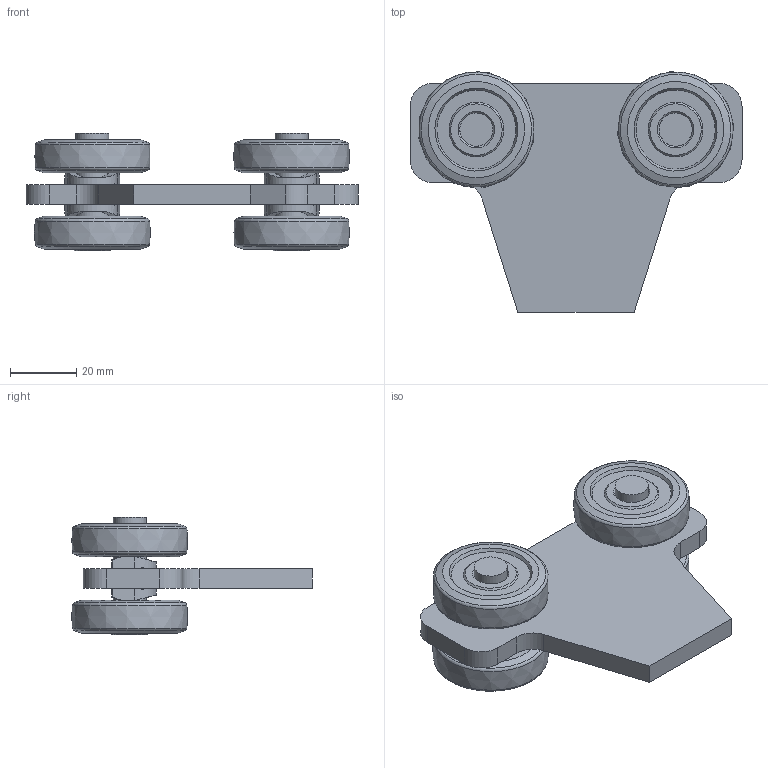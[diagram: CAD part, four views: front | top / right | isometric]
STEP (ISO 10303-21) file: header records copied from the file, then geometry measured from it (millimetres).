
FILE_DESCRIPTION(/* description */ ('Brennteil'),/* implementation_level */ '2;1');
FILE_NAME(/* name */ 'Q:\sge-ma\Produktmanagement-STB\STB\Workspace\stp\010336848.stp',/* time_stamp */ '2016-07-14T12:57:50+02:00',/* author */ ('avschreier'),/* organization */ (''),/* preprocessor_version */ 'ST-DEVELOPER v16.1',/* originating_system */ 'Autodesk Inventor 2016',/* authorisation */ '');
FILE_SCHEMA (('AUTOMOTIVE_DESIGN { 1 0 10303 214 3 1 1 }'));
Length unit declared in the file: millimetre
Products named in the file (5): 000302063; 000303236; 336290020; 000304013; 010336848
Assembly tree (11 placements, depth 2):
  010336848
    000302063
    000303236  x4
    336290020  x4
    000304013  x2
Bounding box: 100 x 72.49 x 35.5 mm (x, y, z)
Volume: 65216.6 mm3; surface area: 27735 mm2
Topology: 11 solids, 11 shells, 262 faces, 622 edges, 400 vertices
Faces by surface type: plane 148, bspline 36, cylinder 34, cone 34, torus 10
Full cylindrical faces by diameter (mm): 10 x6, 12 x2
Entity records: 3721 total; most frequent: CARTESIAN_POINT 1584, DIRECTION 432, ORIENTED_EDGE 390, EDGE_CURVE 195, AXIS2_PLACEMENT_3D 160, VERTEX_POINT 136, EDGE_LOOP 113, LINE 112
